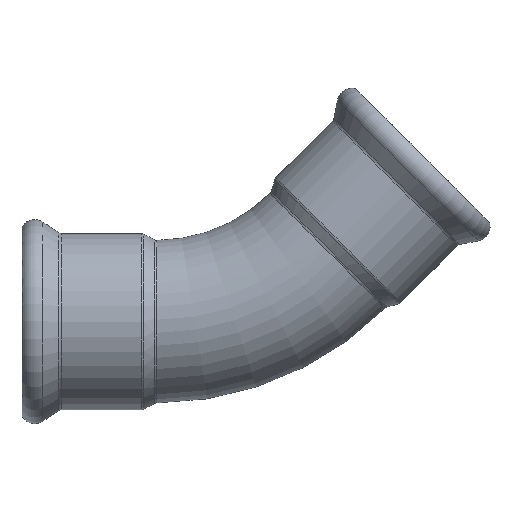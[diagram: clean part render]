
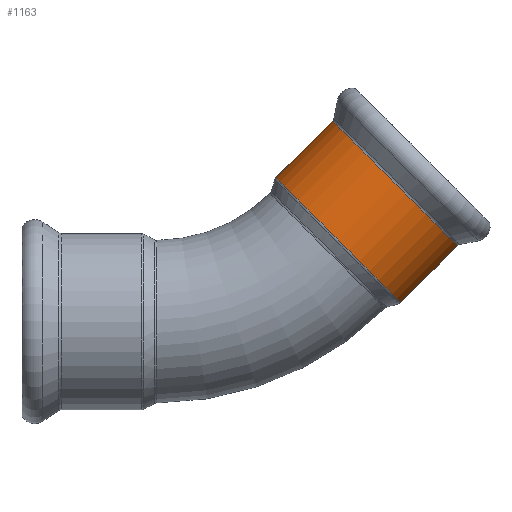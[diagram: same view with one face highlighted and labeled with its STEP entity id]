
A CAD part, top view. The second image highlights one B-rep face of the part: STEP entity #1163.
In plain terms, the highlighted cylindrical face has radius 19.15 mm (diameter 38.3 mm), a partial arc.
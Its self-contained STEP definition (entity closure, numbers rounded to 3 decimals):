
#157 = CARTESIAN_POINT ( 'NONE',  ( 26.107, -21.764, 0. ) ) ;
#165 = EDGE_CURVE ( 'NONE', #3152, #384, #394, .T. ) ;
#211 = CARTESIAN_POINT ( 'NONE',  ( 53.189, -48.847, 0. ) ) ;
#234 = CARTESIAN_POINT ( 'NONE',  ( 65.516, -36.52, 0. ) ) ;
#240 = DIRECTION ( 'NONE',  ( -0.707, -0.707, 0. ) ) ;
#282 = LINE ( 'NONE', #910, #2167 ) ;
#377 = ORIENTED_EDGE ( 'NONE', *, *, #165, .T. ) ;
#380 = DIRECTION ( 'NONE',  ( -0.707, 0.707, 0. ) ) ;
#384 = VERTEX_POINT ( 'NONE', #3625 ) ;
#394 = CIRCLE ( 'NONE', #1050, 19.15 ) ;
#560 = DIRECTION ( 'NONE',  ( 0.707, -0.707, 0. ) ) ;
#741 = VERTEX_POINT ( 'NONE', #157 ) ;
#751 = AXIS2_PLACEMENT_3D ( 'NONE', #1209, #3010, #2094 ) ;
#757 = CARTESIAN_POINT ( 'NONE',  ( 51.975, -22.979, 0. ) ) ;
#910 = CARTESIAN_POINT ( 'NONE',  ( 51.018, -51.018, 0. ) ) ;
#1050 = AXIS2_PLACEMENT_3D ( 'NONE', #757, #1375, #380 ) ;
#1158 = FACE_OUTER_BOUND ( 'NONE', #1582, .T. ) ;
#1163 = ADVANCED_FACE ( 'NONE', ( #1158 ), #1242, .T. ) ;
#1175 = DIRECTION ( 'NONE',  ( 0.707, 0.707, 0. ) ) ;
#1209 = CARTESIAN_POINT ( 'NONE',  ( 37.477, -37.477, 0. ) ) ;
#1242 = CYLINDRICAL_SURFACE ( 'NONE', #751, 19.15 ) ;
#1375 = DIRECTION ( 'NONE',  ( -0.707, -0.707, 0. ) ) ;
#1394 = ORIENTED_EDGE ( 'NONE', *, *, #1604, .T. ) ;
#1582 = EDGE_LOOP ( 'NONE', ( #1689, #377, #2479, #1394 ) ) ;
#1604 = EDGE_CURVE ( 'NONE', #741, #2953, #2946, .T. ) ;
#1689 = ORIENTED_EDGE ( 'NONE', *, *, #1701, .F. ) ;
#1701 = EDGE_CURVE ( 'NONE', #3152, #2953, #282, .T. ) ;
#1793 = VECTOR ( 'NONE', #240, 1000. ) ;
#2092 = CARTESIAN_POINT ( 'NONE',  ( 39.648, -35.306, 0. ) ) ;
#2094 = DIRECTION ( 'NONE',  ( -0.707, 0.707, 0. ) ) ;
#2167 = VECTOR ( 'NONE', #3648, 1000. ) ;
#2479 = ORIENTED_EDGE ( 'NONE', *, *, #2655, .T. ) ;
#2622 = AXIS2_PLACEMENT_3D ( 'NONE', #2092, #1175, #560 ) ;
#2655 = EDGE_CURVE ( 'NONE', #384, #741, #2670, .T. ) ;
#2670 = LINE ( 'NONE', #3013, #1793 ) ;
#2946 = CIRCLE ( 'NONE', #2622, 19.15 ) ;
#2953 = VERTEX_POINT ( 'NONE', #211 ) ;
#3010 = DIRECTION ( 'NONE',  ( -0.707, -0.707, 0. ) ) ;
#3013 = CARTESIAN_POINT ( 'NONE',  ( 23.936, -23.936, 0. ) ) ;
#3152 = VERTEX_POINT ( 'NONE', #234 ) ;
#3625 = CARTESIAN_POINT ( 'NONE',  ( 38.434, -9.437, 0. ) ) ;
#3648 = DIRECTION ( 'NONE',  ( -0.707, -0.707, 0. ) ) ;
